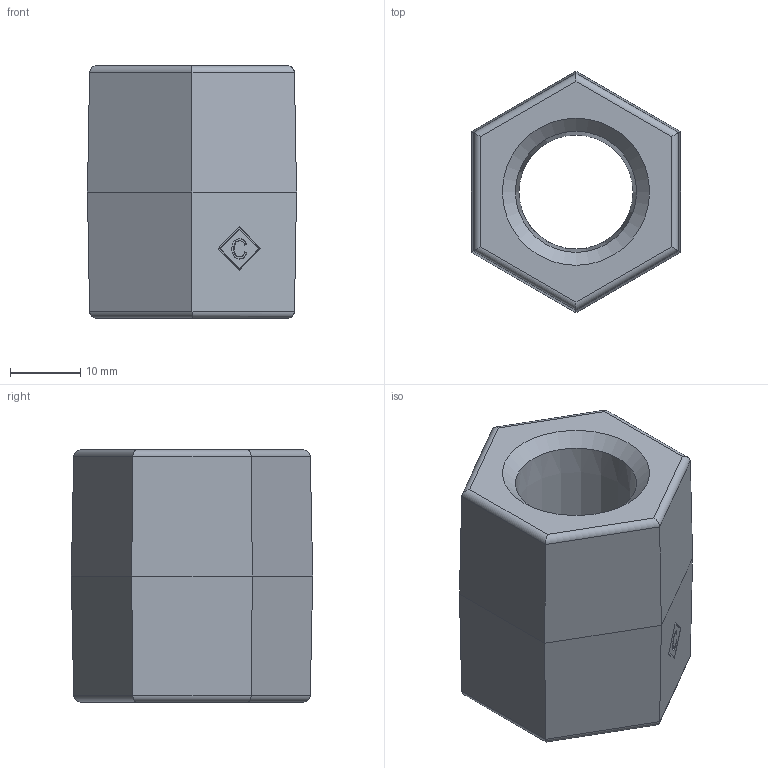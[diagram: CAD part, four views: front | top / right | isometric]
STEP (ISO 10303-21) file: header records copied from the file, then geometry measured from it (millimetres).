
FILE_DESCRIPTION((''),'2;1');
FILE_NAME('P:\Fastrack\53909_CRANE\Crane\Fig.177 Socket\New 0.50 inch\177-0.50.stp','2009-09-16T16:41:47',('btaylor'),(''),'Autodesk Inventor 2008','Autodesk Inventor 2008','');
FILE_SCHEMA(('AUTOMOTIVE_DESIGN { 1 0 10303 214 1 1 1 1 }'));
Length unit declared in the file: millimetre
Products named in the file (1): 177-0.50
Bounding box: 29.83 x 34.44 x 36 mm (x, y, z)
Volume: 18911.8 mm3; surface area: 6410.6 mm2
Topology: 1 solids, 1 shells, 51 faces, 118 edges, 72 vertices
Faces by surface type: plane 20, bspline 15, cylinder 12, cone 4
Entity records: 1537 total; most frequent: CARTESIAN_POINT 429, ORIENTED_EDGE 226, DIRECTION 188, EDGE_CURVE 113, VECTOR 80, LINE 80, VERTEX_POINT 71, EDGE_LOOP 60
